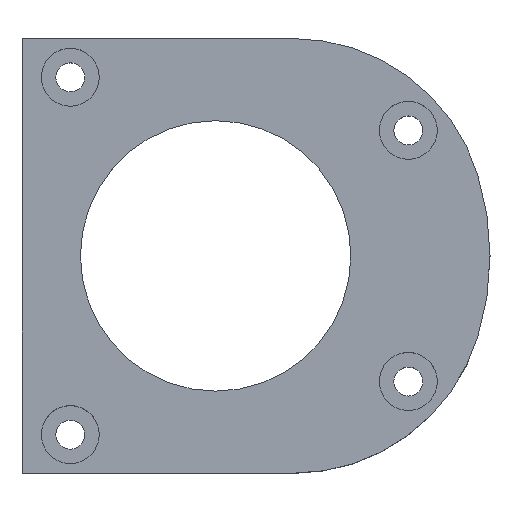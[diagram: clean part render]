
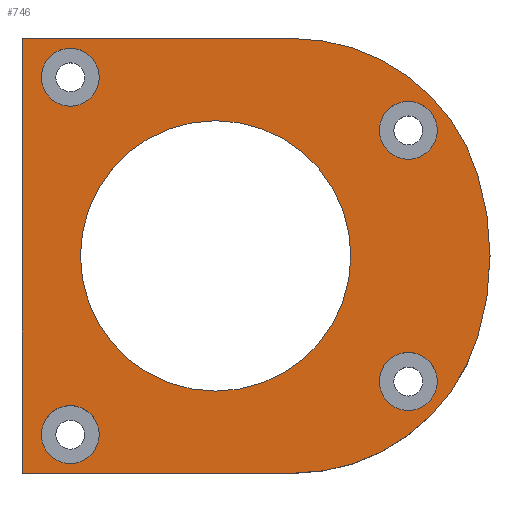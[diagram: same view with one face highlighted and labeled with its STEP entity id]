
A CAD part, top view. The second image highlights one B-rep face of the part: STEP entity #746.
In plain terms, the highlighted planar face has unit normal (0, 0, 1).
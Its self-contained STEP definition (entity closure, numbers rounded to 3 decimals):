
#2 = DIRECTION ( 'NONE',  ( 0., 0., 1. ) ) ;
#3 = ORIENTED_EDGE ( 'NONE', *, *, #617, .F. ) ;
#8 = CARTESIAN_POINT ( 'NONE',  ( 79.999, 3.866, 12.6 ) ) ;
#10 = VERTEX_POINT ( 'NONE', #436 ) ;
#15 = EDGE_CURVE ( 'NONE', #519, #877, #134, .T. ) ;
#17 = ORIENTED_EDGE ( 'NONE', *, *, #190, .T. ) ;
#39 = CARTESIAN_POINT ( 'NONE',  ( 82.999, 3.866, 12.6 ) ) ;
#41 = CIRCLE ( 'NONE', #826, 3. ) ;
#45 = CARTESIAN_POINT ( 'NONE',  ( 76.999, 29.866, 12.6 ) ) ;
#57 = EDGE_LOOP ( 'NONE', ( #1023, #528 ) ) ;
#65 = CIRCLE ( 'NONE', #443, 3. ) ;
#75 = ORIENTED_EDGE ( 'NONE', *, *, #238, .T. ) ;
#90 = VERTEX_POINT ( 'NONE', #693 ) ;
#95 = VERTEX_POINT ( 'NONE', #629 ) ;
#98 = CARTESIAN_POINT ( 'NONE',  ( 39.999, -5.634, 12.6 ) ) ;
#101 = DIRECTION ( 'NONE',  ( 1., 0., 0. ) ) ;
#103 = VERTEX_POINT ( 'NONE', #39 ) ;
#105 = VERTEX_POINT ( 'NONE', #998 ) ;
#120 = CIRCLE ( 'NONE', #951, 14. ) ;
#132 = CIRCLE ( 'NONE', #658, 3. ) ;
#133 = DIRECTION ( 'NONE',  ( 1., 0., 0. ) ) ;
#134 = CIRCLE ( 'NONE', #369, 20. ) ;
#145 = DIRECTION ( 'NONE',  ( 1., 0., 0. ) ) ;
#163 = FACE_BOUND ( 'NONE', #225, .T. ) ;
#176 = EDGE_CURVE ( 'NONE', #743, #95, #120, .T. ) ;
#178 = VERTEX_POINT ( 'NONE', #45 ) ;
#180 = CARTESIAN_POINT ( 'NONE',  ( 68.076, 19.366, 12.6 ) ) ;
#181 = CARTESIAN_POINT ( 'NONE',  ( 44.999, 35.366, 12.6 ) ) ;
#190 = EDGE_CURVE ( 'NONE', #941, #519, #330, .T. ) ;
#200 = DIRECTION ( 'NONE',  ( 0., 0., 1. ) ) ;
#207 = AXIS2_PLACEMENT_3D ( 'NONE', #609, #265, #788 ) ;
#208 = CARTESIAN_POINT ( 'NONE',  ( 82.999, 29.866, 12.6 ) ) ;
#214 = DIRECTION ( 'NONE',  ( 0., 0., 1. ) ) ;
#220 = DIRECTION ( 'NONE',  ( -1., 0., 0. ) ) ;
#224 = CARTESIAN_POINT ( 'NONE',  ( 44.999, -1.634, 12.6 ) ) ;
#225 = EDGE_LOOP ( 'NONE', ( #680, #610 ) ) ;
#227 = CARTESIAN_POINT ( 'NONE',  ( 68.076, 39.366, 12.6 ) ) ;
#238 = EDGE_CURVE ( 'NONE', #1027, #1060, #485, .T. ) ;
#246 = EDGE_CURVE ( 'NONE', #877, #534, #851, .T. ) ;
#249 = EDGE_LOOP ( 'NONE', ( #648, #562, #75, #657, #17, #1051 ) ) ;
#256 = EDGE_LOOP ( 'NONE', ( #258, #398 ) ) ;
#258 = ORIENTED_EDGE ( 'NONE', *, *, #677, .F. ) ;
#265 = DIRECTION ( 'NONE',  ( 0., 0., 1. ) ) ;
#266 = VERTEX_POINT ( 'NONE', #1089 ) ;
#270 = DIRECTION ( 'NONE',  ( 1., 0., 0. ) ) ;
#279 = AXIS2_PLACEMENT_3D ( 'NONE', #724, #214, #468 ) ;
#297 = AXIS2_PLACEMENT_3D ( 'NONE', #181, #694, #101 ) ;
#327 = ORIENTED_EDGE ( 'NONE', *, *, #841, .F. ) ;
#330 = CIRCLE ( 'NONE', #1093, 28.408 ) ;
#334 = CARTESIAN_POINT ( 'NONE',  ( 39.999, 39.366, 12.6 ) ) ;
#346 = CIRCLE ( 'NONE', #297, 3. ) ;
#348 = VECTOR ( 'NONE', #145, 1000. ) ;
#352 = DIRECTION ( 'NONE',  ( 0., 0., 1. ) ) ;
#369 = AXIS2_PLACEMENT_3D ( 'NONE', #180, #796, #270 ) ;
#373 = EDGE_CURVE ( 'NONE', #90, #266, #41, .T. ) ;
#398 = ORIENTED_EDGE ( 'NONE', *, *, #822, .F. ) ;
#399 = VECTOR ( 'NONE', #1036, 1000. ) ;
#421 = FACE_BOUND ( 'NONE', #256, .T. ) ;
#428 = PLANE ( 'NONE',  #1114 ) ;
#436 = CARTESIAN_POINT ( 'NONE',  ( 41.999, 35.366, 12.6 ) ) ;
#443 = AXIS2_PLACEMENT_3D ( 'NONE', #835, #583, #566 ) ;
#457 = EDGE_LOOP ( 'NONE', ( #1108, #3 ) ) ;
#468 = DIRECTION ( 'NONE',  ( 1., 0., 0. ) ) ;
#482 = EDGE_CURVE ( 'NONE', #1060, #941, #656, .T. ) ;
#485 = LINE ( 'NONE', #1019, #348 ) ;
#492 = CIRCLE ( 'NONE', #845, 3. ) ;
#499 = CARTESIAN_POINT ( 'NONE',  ( 74.049, 16.866, 12.6 ) ) ;
#517 = DIRECTION ( 'NONE',  ( 1., 0., 0. ) ) ;
#518 = EDGE_LOOP ( 'NONE', ( #870, #327 ) ) ;
#519 = VERTEX_POINT ( 'NONE', #786 ) ;
#528 = ORIENTED_EDGE ( 'NONE', *, *, #1056, .F. ) ;
#534 = VERTEX_POINT ( 'NONE', #334 ) ;
#547 = EDGE_CURVE ( 'NONE', #1027, #534, #613, .T. ) ;
#557 = CARTESIAN_POINT ( 'NONE',  ( 68.076, 39.366, 12.6 ) ) ;
#562 = ORIENTED_EDGE ( 'NONE', *, *, #547, .F. ) ;
#566 = DIRECTION ( 'NONE',  ( 1., 0., 0. ) ) ;
#567 = CARTESIAN_POINT ( 'NONE',  ( 79.999, 3.866, 12.6 ) ) ;
#583 = DIRECTION ( 'NONE',  ( 0., 0., 1. ) ) ;
#590 = VECTOR ( 'NONE', #220, 1000. ) ;
#600 = CARTESIAN_POINT ( 'NONE',  ( 68.076, 14.366, 12.6 ) ) ;
#609 = CARTESIAN_POINT ( 'NONE',  ( 44.999, 35.366, 12.6 ) ) ;
#610 = ORIENTED_EDGE ( 'NONE', *, *, #772, .F. ) ;
#613 = LINE ( 'NONE', #98, #399 ) ;
#617 = EDGE_CURVE ( 'NONE', #95, #743, #932, .T. ) ;
#627 = DIRECTION ( 'NONE',  ( 1., 0., 0. ) ) ;
#629 = CARTESIAN_POINT ( 'NONE',  ( 46.049, 16.866, 12.6 ) ) ;
#647 = FACE_BOUND ( 'NONE', #518, .T. ) ;
#648 = ORIENTED_EDGE ( 'NONE', *, *, #246, .T. ) ;
#649 = DIRECTION ( 'NONE',  ( 1., 0., 0. ) ) ;
#656 = CIRCLE ( 'NONE', #953, 20. ) ;
#657 = ORIENTED_EDGE ( 'NONE', *, *, #482, .T. ) ;
#658 = AXIS2_PLACEMENT_3D ( 'NONE', #8, #2, #967 ) ;
#675 = CIRCLE ( 'NONE', #935, 3. ) ;
#677 = EDGE_CURVE ( 'NONE', #103, #1074, #492, .T. ) ;
#680 = ORIENTED_EDGE ( 'NONE', *, *, #373, .F. ) ;
#681 = DIRECTION ( 'NONE',  ( 0., 0., 1. ) ) ;
#693 = CARTESIAN_POINT ( 'NONE',  ( 47.999, -1.634, 12.6 ) ) ;
#694 = DIRECTION ( 'NONE',  ( 0., 0., 1. ) ) ;
#697 = CIRCLE ( 'NONE', #207, 3. ) ;
#705 = DIRECTION ( 'NONE',  ( 1., 0., 0. ) ) ;
#719 = DIRECTION ( 'NONE',  ( 0., 0., 1. ) ) ;
#724 = CARTESIAN_POINT ( 'NONE',  ( 60.049, 16.866, 12.6 ) ) ;
#736 = CARTESIAN_POINT ( 'NONE',  ( 60.049, 16.866, 12.6 ) ) ;
#743 = VERTEX_POINT ( 'NONE', #499 ) ;
#746 = ADVANCED_FACE ( 'NONE', ( #163, #421, #773, #647, #854, #866 ), #428, .T. ) ;
#754 = CARTESIAN_POINT ( 'NONE',  ( 39.999, -5.634, 12.6 ) ) ;
#772 = EDGE_CURVE ( 'NONE', #266, #90, #847, .T. ) ;
#773 = FACE_BOUND ( 'NONE', #57, .T. ) ;
#778 = DIRECTION ( 'NONE',  ( 0., 0., 1. ) ) ;
#786 = CARTESIAN_POINT ( 'NONE',  ( 87.172, 25.313, 12.6 ) ) ;
#788 = DIRECTION ( 'NONE',  ( 1., 0., 0. ) ) ;
#796 = DIRECTION ( 'NONE',  ( 0., 0., 1. ) ) ;
#799 = EDGE_CURVE ( 'NONE', #105, #10, #697, .T. ) ;
#820 = CARTESIAN_POINT ( 'NONE',  ( 87.172, 8.419, 12.6 ) ) ;
#822 = EDGE_CURVE ( 'NONE', #1074, #103, #132, .T. ) ;
#823 = CARTESIAN_POINT ( 'NONE',  ( 60.049, 16.866, 12.6 ) ) ;
#826 = AXIS2_PLACEMENT_3D ( 'NONE', #1112, #681, #832 ) ;
#827 = DIRECTION ( 'NONE',  ( 1., 0., 0. ) ) ;
#832 = DIRECTION ( 'NONE',  ( 1., 0., 0. ) ) ;
#835 = CARTESIAN_POINT ( 'NONE',  ( 79.999, 29.866, 12.6 ) ) ;
#841 = EDGE_CURVE ( 'NONE', #10, #105, #346, .T. ) ;
#845 = AXIS2_PLACEMENT_3D ( 'NONE', #567, #918, #133 ) ;
#847 = CIRCLE ( 'NONE', #920, 3. ) ;
#848 = CARTESIAN_POINT ( 'NONE',  ( 76.999, 3.866, 12.6 ) ) ;
#851 = LINE ( 'NONE', #227, #590 ) ;
#854 = FACE_BOUND ( 'NONE', #457, .T. ) ;
#866 = FACE_OUTER_BOUND ( 'NONE', #249, .T. ) ;
#870 = ORIENTED_EDGE ( 'NONE', *, *, #799, .F. ) ;
#872 = EDGE_CURVE ( 'NONE', #915, #178, #675, .T. ) ;
#877 = VERTEX_POINT ( 'NONE', #557 ) ;
#915 = VERTEX_POINT ( 'NONE', #208 ) ;
#918 = DIRECTION ( 'NONE',  ( 0., 0., 1. ) ) ;
#920 = AXIS2_PLACEMENT_3D ( 'NONE', #224, #1116, #517 ) ;
#930 = CARTESIAN_POINT ( 'NONE',  ( 68.076, -5.634, 12.6 ) ) ;
#932 = CIRCLE ( 'NONE', #279, 14. ) ;
#935 = AXIS2_PLACEMENT_3D ( 'NONE', #996, #200, #627 ) ;
#941 = VERTEX_POINT ( 'NONE', #820 ) ;
#951 = AXIS2_PLACEMENT_3D ( 'NONE', #823, #719, #827 ) ;
#953 = AXIS2_PLACEMENT_3D ( 'NONE', #1032, #352, #705 ) ;
#967 = DIRECTION ( 'NONE',  ( 1., 0., 0. ) ) ;
#996 = CARTESIAN_POINT ( 'NONE',  ( 79.999, 29.866, 12.6 ) ) ;
#998 = CARTESIAN_POINT ( 'NONE',  ( 47.999, 35.366, 12.6 ) ) ;
#1019 = CARTESIAN_POINT ( 'NONE',  ( 39.849, -5.634, 12.6 ) ) ;
#1023 = ORIENTED_EDGE ( 'NONE', *, *, #872, .F. ) ;
#1027 = VERTEX_POINT ( 'NONE', #754 ) ;
#1032 = CARTESIAN_POINT ( 'NONE',  ( 68.076, 14.366, 12.6 ) ) ;
#1036 = DIRECTION ( 'NONE',  ( 0., 1., 0. ) ) ;
#1051 = ORIENTED_EDGE ( 'NONE', *, *, #15, .T. ) ;
#1056 = EDGE_CURVE ( 'NONE', #178, #915, #65, .T. ) ;
#1060 = VERTEX_POINT ( 'NONE', #930 ) ;
#1074 = VERTEX_POINT ( 'NONE', #848 ) ;
#1085 = DIRECTION ( 'NONE',  ( 0., 0., 1. ) ) ;
#1089 = CARTESIAN_POINT ( 'NONE',  ( 41.999, -1.634, 12.6 ) ) ;
#1093 = AXIS2_PLACEMENT_3D ( 'NONE', #736, #1085, #649 ) ;
#1108 = ORIENTED_EDGE ( 'NONE', *, *, #176, .F. ) ;
#1112 = CARTESIAN_POINT ( 'NONE',  ( 44.999, -1.634, 12.6 ) ) ;
#1114 = AXIS2_PLACEMENT_3D ( 'NONE', #600, #778, #1121 ) ;
#1116 = DIRECTION ( 'NONE',  ( 0., 0., 1. ) ) ;
#1121 = DIRECTION ( 'NONE',  ( 1., 0., 0. ) ) ;
